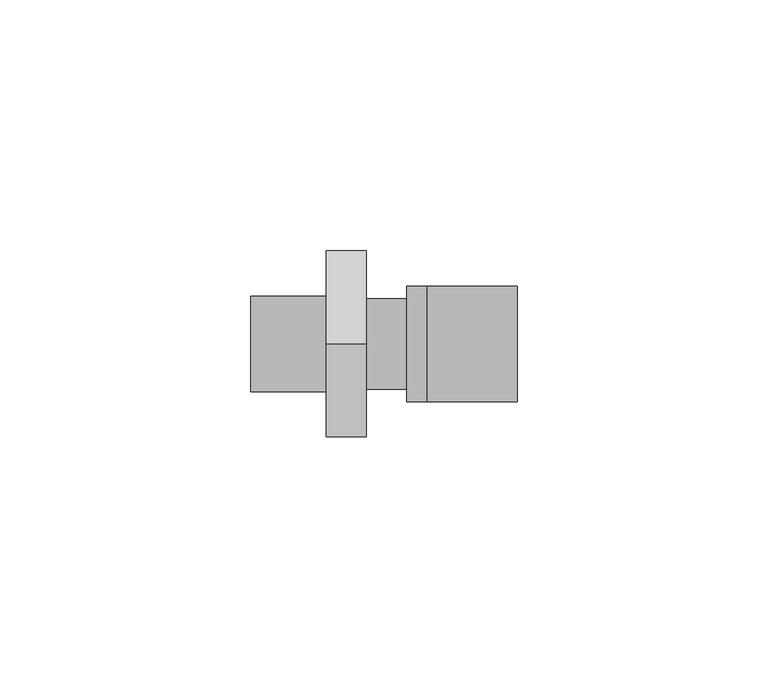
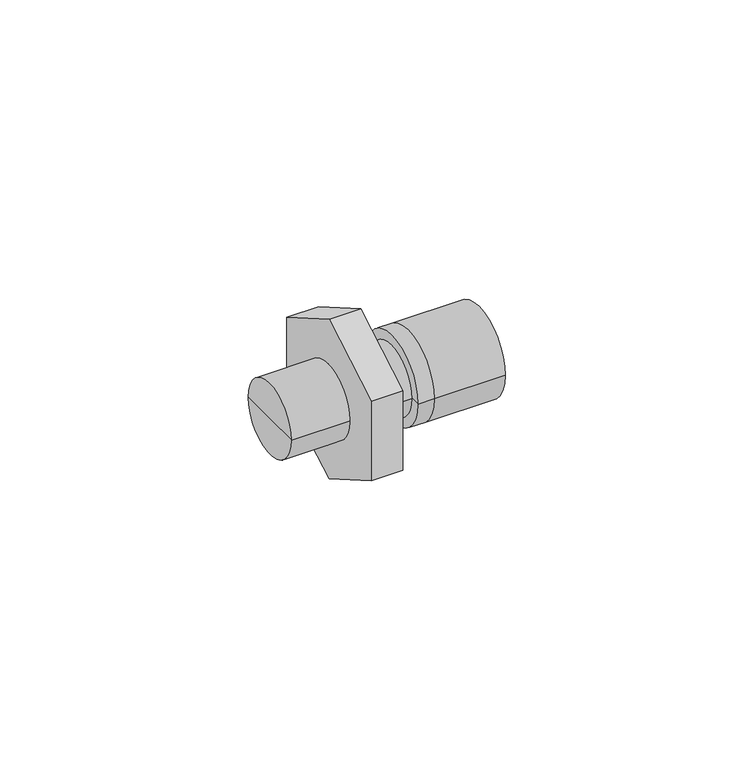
"""IFC4 building model written with IfcOpenShell, lengths in millimetres: pipe fitting geometry, KAN-therm Push złączka z gw 3-4 : KAN-therm Push złączka z gw 3-4."""

from ifc_helpers import new_model, si_unit, frame, origin, place, context, project, spatial, polyline, circle_curve, outline, extrude, source, transform, mapped, element, save
from ifc_brep_helpers import plane_surface, cylinder_surface, advanced_brep


def pipe_fitting_7f02631f(model_context):
    return source(origin(), model_context, "Body", "SolidModel", [
        advanced_brep(
        [(20.0, -11.5, 0.0), (20.0, 11.5, 0.0), (20.0, 0.0, 0.0), (16.0, -11.5, 0.0), (16.0, 11.5, 0.0), (16.0, 0.0, 0.0)],
        [
            (0, 1, circle_curve(frame((20.0, 0.0, 0.0), z_axis=(1.0, 0.0, 0.0), x_axis=(0.0, 1.0, 0.0)), 11.5)),
            (1, 2),
            (2, 0),
            (1, 0, circle_curve(frame((20.0, 0.0, 0.0), z_axis=(1.0, 0.0, 0.0), x_axis=(0.0, 1.0, 0.0)), 11.5)),
            (3, 4, circle_curve(frame((16.0, 0.0, 0.0), z_axis=(1.0, 0.0, 0.0), x_axis=(0.0, 1.0, 0.0)), 11.5)),
            (4, 1),
            (0, 3),
            (4, 3, circle_curve(frame((16.0, 0.0, 0.0), z_axis=(1.0, 0.0, 0.0), x_axis=(0.0, 1.0, 0.0)), 11.5)),
            (5, 4),
            (3, 5),
        ],
        [
            plane_surface(frame((20.0, 0.0, 0.0), z_axis=(1.0, 0.0, 0.0), x_axis=(0.0, 1.0, 0.0))),
            cylinder_surface(frame((2015.0, 0.0, 0.0), z_axis=(-1.0, 0.0, 0.0), x_axis=(0.0, 1.0, 0.0)), 11.5),
            plane_surface(frame((16.0, 0.0, 0.0), z_axis=(-1.0, 0.0, 0.0), x_axis=(0.0, 1.0, 0.0))),
        ],
        [
            (0, [[1, 2, 3]]),
            (0, [[4, -3, -2]]),
            (1, [[5, 6, -1, 7]]),
            (1, [[8, -7, -4, -6]]),
            (2, [[9, -5, 10]]),
            (2, [[-10, -8, -9]]),
        ],
    ),
        advanced_brep(
        [(38.0, -11.5, 0.0), (38.0, 11.5, 0.0), (38.0, 0.0, 0.0), (20.0, -11.5, 0.0), (20.0, 11.5, 0.0), (20.0, 0.0, 0.0)],
        [
            (0, 1, circle_curve(frame((38.0, 0.0, 0.0), z_axis=(1.0, 0.0, 0.0), x_axis=(0.0, 1.0, 0.0)), 11.5)),
            (1, 2),
            (2, 0),
            (1, 0, circle_curve(frame((38.0, 0.0, 0.0), z_axis=(1.0, 0.0, 0.0), x_axis=(0.0, 1.0, 0.0)), 11.5)),
            (3, 4, circle_curve(frame((20.0, 0.0, 0.0), z_axis=(1.0, 0.0, 0.0), x_axis=(0.0, 1.0, 0.0)), 11.5)),
            (4, 1),
            (0, 3),
            (4, 3, circle_curve(frame((20.0, 0.0, 0.0), z_axis=(1.0, 0.0, 0.0), x_axis=(0.0, 1.0, 0.0)), 11.5)),
            (5, 4),
            (3, 5),
        ],
        [
            plane_surface(frame((38.0, 0.0, 0.0), z_axis=(1.0, 0.0, 0.0), x_axis=(0.0, 1.0, 0.0))),
            cylinder_surface(frame((2015.0, 0.0, 0.0), z_axis=(-1.0, 0.0, 0.0), x_axis=(0.0, 1.0, 0.0)), 11.5),
            plane_surface(frame((20.0, 0.0, 0.0), z_axis=(-1.0, 0.0, 0.0), x_axis=(0.0, 1.0, 0.0))),
        ],
        [
            (0, [[1, 2, 3]]),
            (0, [[4, -3, -2]]),
            (1, [[5, 6, -1, 7]]),
            (1, [[8, -7, -4, -6]]),
            (2, [[9, -5, 10]]),
            (2, [[-10, -8, -9]]),
        ],
    ),
        extrude(outline(polyline([(0.0, -21.36196), (-18.5, -10.68098), (-18.5, 10.68098), (0.0, 21.36196), (18.5, 10.68098), (18.5, -10.68098), (0.0, -21.36196)])), frame((0.0, 0.0, 0.0), z_axis=(1.0, 0.0, 0.0), x_axis=(0.0, 1.0, 0.0)), (0.0, 0.0, 1.0), 8.0),
        advanced_brep(
        [(20.0, -9.0, 0.0), (20.0, 9.0, 0.0), (20.0, 0.0, 0.0), (8.0, -9.0, 0.0), (8.0, 9.0, 0.0), (8.0, 0.0, 0.0)],
        [
            (0, 1, circle_curve(frame((20.0, 0.0, 0.0), z_axis=(1.0, 0.0, 0.0), x_axis=(0.0, 1.0, 0.0)), 9.0)),
            (1, 2),
            (2, 0),
            (1, 0, circle_curve(frame((20.0, 0.0, 0.0), z_axis=(1.0, 0.0, 0.0), x_axis=(0.0, 1.0, 0.0)), 9.0)),
            (3, 4, circle_curve(frame((8.0, 0.0, 0.0), z_axis=(1.0, 0.0, 0.0), x_axis=(0.0, 1.0, 0.0)), 9.0)),
            (4, 1),
            (0, 3),
            (4, 3, circle_curve(frame((8.0, 0.0, 0.0), z_axis=(1.0, 0.0, 0.0), x_axis=(0.0, 1.0, 0.0)), 9.0)),
            (5, 4),
            (3, 5),
        ],
        [
            plane_surface(frame((20.0, 0.0, 0.0), z_axis=(1.0, 0.0, 0.0), x_axis=(0.0, 1.0, 0.0))),
            cylinder_surface(frame((2004.0, 0.0, 0.0), z_axis=(-1.0, 0.0, 0.0), x_axis=(0.0, 1.0, 0.0)), 9.0),
            plane_surface(frame((8.0, 0.0, 0.0), z_axis=(-1.0, 0.0, 0.0), x_axis=(0.0, 1.0, 0.0))),
        ],
        [
            (0, [[1, 2, 3]]),
            (0, [[4, -3, -2]]),
            (1, [[5, 6, -1, 7]]),
            (1, [[8, -7, -4, -6]]),
            (2, [[9, -5, 10]]),
            (2, [[-10, -8, -9]]),
        ],
    ),
        advanced_brep(
        [(0.0, -9.525, 0.0), (0.0, 9.525, 0.0), (0.0, 0.0, 0.0), (-15.0, -9.525, 0.0), (-15.0, 9.525, 0.0), (-15.0, 0.0, 0.0)],
        [
            (0, 1, circle_curve(frame((0.0, 0.0, 0.0), z_axis=(1.0, 0.0, 0.0), x_axis=(0.0, 1.0, 0.0)), 9.525)),
            (1, 2),
            (2, 0),
            (1, 0, circle_curve(frame((0.0, 0.0, 0.0), z_axis=(1.0, 0.0, 0.0), x_axis=(0.0, 1.0, 0.0)), 9.525)),
            (3, 4, circle_curve(frame((-15.0, 0.0, 0.0), z_axis=(1.0, 0.0, 0.0), x_axis=(0.0, 1.0, 0.0)), 9.525)),
            (4, 1),
            (0, 3),
            (4, 3, circle_curve(frame((-15.0, 0.0, 0.0), z_axis=(1.0, 0.0, 0.0), x_axis=(0.0, 1.0, 0.0)), 9.525)),
            (5, 4),
            (3, 5),
        ],
        [
            plane_surface(frame((0.0, 0.0, 0.0), z_axis=(1.0, 0.0, 0.0), x_axis=(0.0, 1.0, 0.0))),
            cylinder_surface(frame((2004.0, 0.0, 0.0), z_axis=(-1.0, 0.0, 0.0), x_axis=(0.0, 1.0, 0.0)), 9.525),
            plane_surface(frame((-15.0, 0.0, 0.0), z_axis=(-1.0, 0.0, 0.0), x_axis=(0.0, 1.0, 0.0))),
        ],
        [
            (0, [[1, 2, 3]]),
            (0, [[4, -3, -2]]),
            (1, [[5, 6, -1, 7]]),
            (1, [[8, -7, -4, -6]]),
            (2, [[9, -5, 10]]),
            (2, [[-10, -8, -9]]),
        ],
    ),
    ])


if __name__ == "__main__":
    model = new_model("IFC4")
    model_context = context("Model", 3, world=origin())
    ifc_project = project(units=[si_unit("LENGTHUNIT", "METRE", prefix="MILLI")], contexts=[model_context])
    site = spatial("IfcSite", under=ifc_project)
    building = spatial("IfcBuilding", under=site)
    placement = place(None, origin())
    pipe_fitting_shape = pipe_fitting_7f02631f(model_context)
    element("IfcPipeFitting", 1, ObjectType="KAN-therm Push złączka z gw 3-4 : KAN-therm Push złączka z gw 3-4", at=placement, inside=building, context=model_context, shape_type="MappedRepresentation", body=[
        mapped(pipe_fitting_shape, transform((0.0, 0.0, 0.0), x_axis=(1.0, 0.0, 0.0), y_axis=(0.0, 1.0, 0.0), z_axis=(0.0, 0.0, 1.0))),
    ])
    save(model, "model.ifc")
